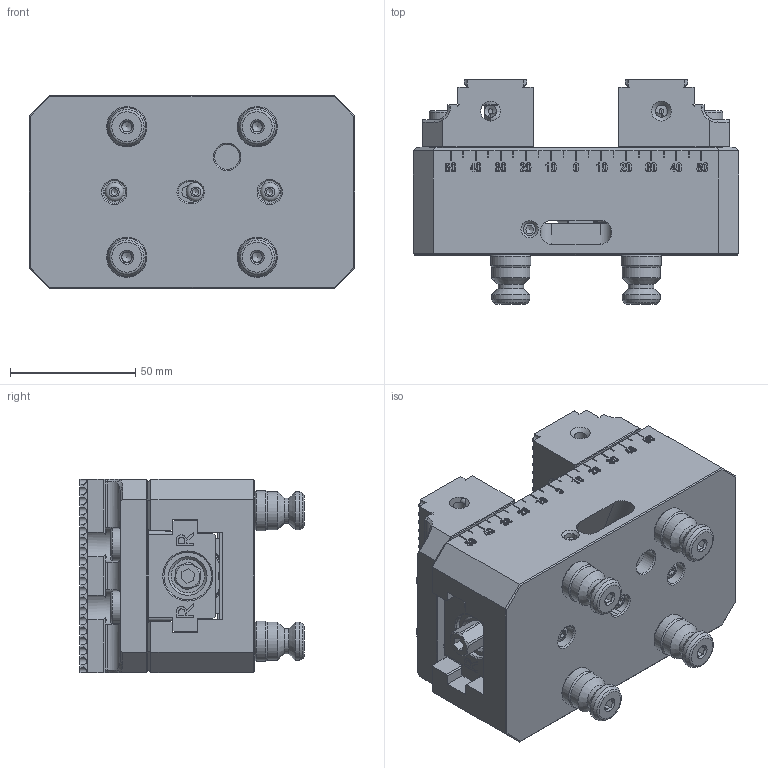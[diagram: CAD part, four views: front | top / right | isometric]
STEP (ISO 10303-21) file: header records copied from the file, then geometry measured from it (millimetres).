
FILE_DESCRIPTION(/* description */ (''),/* implementation_level */ '2;1');
FILE_NAME(/* name */ '1AZV313GA0101.stp',/* time_stamp */ '2025-11-10T01:07:49+08:00',/* author */ ('UserName'),/* organization */ (''),/* preprocessor_version */ 'ST-DEVELOPER v20',/* originating_system */ 'Autodesk Inventor 2025',/* authorisation */ '');
FILE_SCHEMA (('CONFIG_CONTROL_DESIGN'));
Products named in the file (1): 1AZV313GA0101
Bounding box: 130 x 89.36 x 77 mm (x, y, z)
Volume: 496208.1 mm3; surface area: 112731.7 mm2
Topology: 13 solids, 39 shells, 2244 faces, 6037 edges, 3931 vertices
Faces by surface type: plane 1226, bspline 483, cylinder 293, cone 182, torus 36, sphere 24
Full cylindrical faces by diameter (mm): 2 x2, 2.5 x4, 3.242 x1, 4 x3, 4.134 x2, 4.4 x3, 4.917 x12, 6 x2, 6.1 x4, 6.5 x4, 6.647 x16, 7.6 x2, 8 x8, 8.5 x8, 9 x2, 10 x1, 10.2 x4, 11.991 x4, 12 x4, 13 x10, 13.386 x1, 14 x8, 15 x1, 15.202 x8, 15.997 x4, 16 x6, 19 x2, 28 x4, 29 x1
Entity records: 92071 total; most frequent: CARTESIAN_POINT 37984, ORIENTED_EDGE 12040, DIRECTION 9347, EDGE_CURVE 6020, VERTEX_POINT 3974, LINE 3791, VECTOR 3791, AXIS2_PLACEMENT_3D 2778
